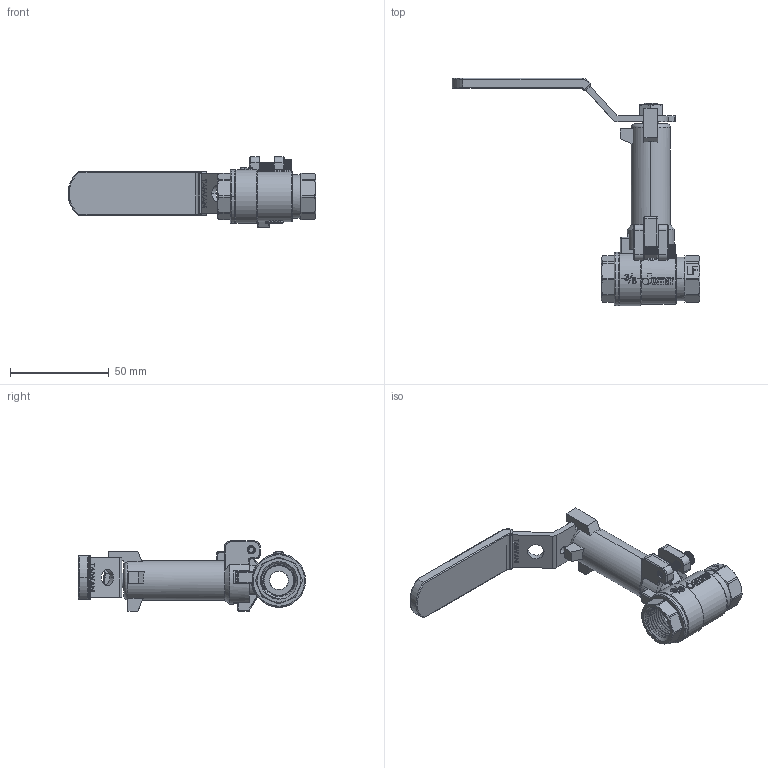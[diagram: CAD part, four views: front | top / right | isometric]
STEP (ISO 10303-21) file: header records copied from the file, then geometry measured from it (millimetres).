
FILE_DESCRIPTION (( 'STEP AP203' ), '1' );
FILE_NAME ('DN10-JOMAR增高套筒估價圖-牙口無掛鎖.STEP', '2024-04-09T07:40:31', ( '' ), ( '' ), 'SwSTEP 2.0', 'SolidWorks 2018', '' );
FILE_SCHEMA (( 'CONFIG_CONTROL_DESIGN' ));
Length unit declared in the file: millimetre
Products named in the file (17): DN15-CBL211白色膠套-T-200CSSG; EBL203B; DN15-CBL703-HANDLE & SLEEVE 組合(白色T膠套); GBL211; DN15-PIPE 2; RBL261-無鑽孔; DN8 & DN10 & DN15-白鐵中心栓; BBL702A-0.375''''JOMAR球閥八角頭-無鉛無插溝; DN15-白鐵中心栓牙套; NBL262; SCREW-M4-19L; EBL201; DN10-JOMAR增高套筒估價圖-牙口無掛鎖; TBL261A; BBL702-0.375''''JOMAR球閥體-無鉛無插溝; CBL211; EBL203A
Assembly tree (18 placements, depth 3):
  DN10-JOMAR增高套筒估價圖-牙口無掛鎖
    BBL702-0.375''''JOMAR球閥體-無鉛無插溝
    EBL203A
    EBL203B
    GBL211
    RBL261-無鑽孔
    BBL702A-0.375''''JOMAR球閥八角頭-無鉛無插溝
    NBL262
    EBL201  x2
    TBL261A
    DN15-CBL703-HANDLE & SLEEVE 組合(白色T膠套)
      CBL211
      DN15-CBL211白色膠套-T-200CSSG
    DN15-CBL211白色膠套-T-200CSSG
    DN15-PIPE 2
    DN8 & DN10 & DN15-白鐵中心栓
    DN15-白鐵中心栓牙套
    SCREW-M4-19L
Bounding box: 125.5 x 115.01 x 35.5 mm (x, y, z)
Volume: 39178 mm3; surface area: 51552.3 mm2
Topology: 16 solids, 18 shells, 4216 faces, 11714 edges, 7845 vertices
Faces by surface type: plane 2230, bspline 1151, cylinder 622, cone 158, torus 43, sphere 12
Entity records: 166809 total; most frequent: CARTESIAN_POINT 99369, ORIENTED_EDGE 15820, DIRECTION 10297, EDGE_CURVE 7912, VERTEX_POINT 5328, VECTOR 4121, LINE 4121, AXIS2_PLACEMENT_3D 3088
